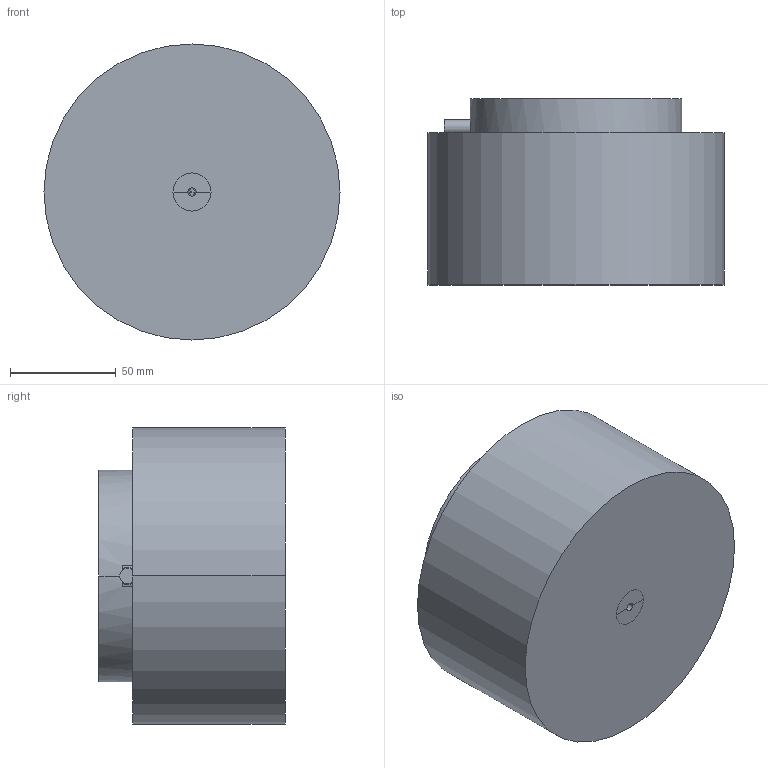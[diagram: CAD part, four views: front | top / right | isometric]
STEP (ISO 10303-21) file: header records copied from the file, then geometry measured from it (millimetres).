
FILE_DESCRIPTION((''),'2;1');
FILE_NAME('S44C101.stp','2020-09-19T08:42:50',(''),(''),'AutoCAD STEP 2000i','AutoCAD 2000i',', , ');
FILE_SCHEMA(('CONFIG_CONTROL_DESIGN'));
Length unit declared in the file: millimetre
Products named in the file (4): DRAWING1; MOLD BODY C44; NOZZLE S101C44; RING 44-2018
Assembly tree (3 placements, depth 2):
  DRAWING1
    MOLD BODY C44
    NOZZLE S101C44
    RING 44-2018
Bounding box: 140 x 88 x 140 mm (x, y, z)
Volume: 1211171.9 mm3; surface area: 106932.6 mm2
Topology: 3 solids, 3 shells, 166 faces, 399 edges, 241 vertices
Faces by surface type: cone 84, cylinder 40, bspline 16, plane 16, torus 10
Entity records: 5735 total; most frequent: CARTESIAN_POINT 1605, DIRECTION 950, ORIENTED_EDGE 790, AXIS2_PLACEMENT_3D 408, EDGE_CURVE 395, CIRCLE 254, VERTEX_POINT 241, EDGE_LOOP 184
